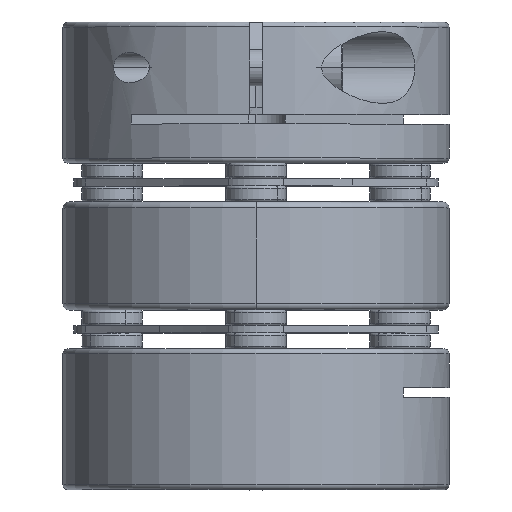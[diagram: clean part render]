
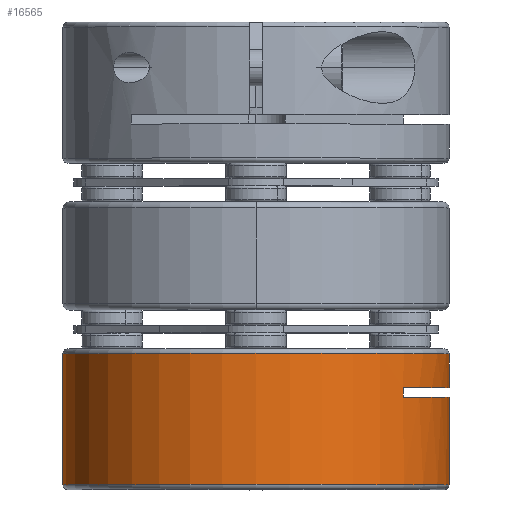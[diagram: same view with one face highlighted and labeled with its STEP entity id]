
A CAD part, top view. The second image highlights one B-rep face of the part: STEP entity #16565.
In plain terms, the highlighted cylindrical face has radius 15.9 mm (diameter 31.8 mm), a partial arc.
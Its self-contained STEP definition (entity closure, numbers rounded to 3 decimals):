
#214 = EDGE_CURVE ( 'NONE', #15412, #15202, #20263, .T. ) ;
#217 = EDGE_CURVE ( 'NONE', #15147, #14938, #20267, .T. ) ;
#223 = EDGE_CURVE ( 'NONE', #15639, #15216, #20277, .T. ) ;
#240 = EDGE_CURVE ( 'NONE', #14938, #15202, #20300, .T. ) ;
#462 = AXIS2_PLACEMENT_3D ( 'NONE', #11373, #11372, #11371 ) ;
#684 = AXIS2_PLACEMENT_3D ( 'NONE', #12375, #12374, #12373 ) ;
#687 = AXIS2_PLACEMENT_3D ( 'NONE', #12364, #12363, #12362 ) ;
#688 = AXIS2_PLACEMENT_3D ( 'NONE', #12361, #12360, #12359 ) ;
#872 = AXIS2_PLACEMENT_3D ( 'NONE', #3087, #3083, #3077 ) ;
#985 = LINE ( 'NONE', #19043, #990 ) ;
#990 = VECTOR ( 'NONE', #19032, 1000. ) ;
#1299 = CIRCLE ( 'NONE', #684, 15.9 ) ;
#1302 = CIRCLE ( 'NONE', #687, 15.9 ) ;
#1303 = CIRCLE ( 'NONE', #688, 15.9 ) ;
#1670 = FACE_OUTER_BOUND ( 'NONE', #21571, .T. ) ;
#1672 = CYLINDRICAL_SURFACE ( 'NONE', #872, 15.9 ) ;
#2220 = CARTESIAN_POINT ( 'NONE',  ( -15.9, -3.6, 0. ) ) ;
#2247 = CARTESIAN_POINT ( 'NONE',  ( 15.9, -14.4, 0. ) ) ;
#2250 = CARTESIAN_POINT ( 'NONE',  ( 15.9, -6.4, 0. ) ) ;
#2318 = CARTESIAN_POINT ( 'NONE',  ( 15.9, -7.2, 0. ) ) ;
#2397 = CARTESIAN_POINT ( 'NONE',  ( 15.9, -3.6, 0. ) ) ;
#2413 = CARTESIAN_POINT ( 'NONE',  ( 12.125, -7.2, 10.286 ) ) ;
#3077 = DIRECTION ( 'NONE',  ( -1., 0., 0. ) ) ;
#3083 = DIRECTION ( 'NONE',  ( 0., -1., 0. ) ) ;
#3087 = CARTESIAN_POINT ( 'NONE',  ( 0., -3.2, 0. ) ) ;
#11371 = DIRECTION ( 'NONE',  ( -1., 0., 0. ) ) ;
#11372 = DIRECTION ( 'NONE',  ( 0., 1., 0. ) ) ;
#11373 = CARTESIAN_POINT ( 'NONE',  ( 0., -14.4, 0. ) ) ;
#11486 = CARTESIAN_POINT ( 'NONE',  ( 15.9, -3.2, 0. ) ) ;
#11492 = DIRECTION ( 'NONE',  ( 0., -1., 0. ) ) ;
#11499 = DIRECTION ( 'NONE',  ( 0., -1., 0. ) ) ;
#12359 = DIRECTION ( 'NONE',  ( 0., 0., -1. ) ) ;
#12360 = DIRECTION ( 'NONE',  ( 0., -1., 0. ) ) ;
#12361 = CARTESIAN_POINT ( 'NONE',  ( 0., -6.4, 0. ) ) ;
#12362 = DIRECTION ( 'NONE',  ( 0., 0., 1. ) ) ;
#12363 = DIRECTION ( 'NONE',  ( 0., 1., 0. ) ) ;
#12364 = CARTESIAN_POINT ( 'NONE',  ( 0., -7.2, 0. ) ) ;
#12373 = DIRECTION ( 'NONE',  ( -1., 0., 0. ) ) ;
#12374 = DIRECTION ( 'NONE',  ( 0., -1., 0. ) ) ;
#12375 = CARTESIAN_POINT ( 'NONE',  ( 0., -3.6, 0. ) ) ;
#12686 = EDGE_CURVE ( 'NONE', #15673, #14486, #985, .T. ) ;
#12894 = EDGE_CURVE ( 'NONE', #15639, #15147, #1299, .T. ) ;
#12897 = EDGE_CURVE ( 'NONE', #15673, #15412, #1302, .T. ) ;
#12898 = EDGE_CURVE ( 'NONE', #15216, #14486, #1303, .T. ) ;
#13144 = CARTESIAN_POINT ( 'NONE',  ( -15.9, -14.4, 0. ) ) ;
#13453 = CARTESIAN_POINT ( 'NONE',  ( 12.125, -6.4, 10.286 ) ) ;
#14486 = VERTEX_POINT ( 'NONE', #13453 ) ;
#14856 = CARTESIAN_POINT ( 'NONE',  ( -15.9, -3.2, 0. ) ) ;
#14864 = CARTESIAN_POINT ( 'NONE',  ( 15.9, -3.2, 0. ) ) ;
#14938 = VERTEX_POINT ( 'NONE', #13144 ) ;
#15147 = VERTEX_POINT ( 'NONE', #2220 ) ;
#15163 = DIRECTION ( 'NONE',  ( 0., -1., 0. ) ) ;
#15197 = ORIENTED_EDGE ( 'NONE', *, *, #12686, .T. ) ;
#15201 = ORIENTED_EDGE ( 'NONE', *, *, #214, .F. ) ;
#15202 = VERTEX_POINT ( 'NONE', #2247 ) ;
#15216 = VERTEX_POINT ( 'NONE', #2250 ) ;
#15267 = ORIENTED_EDGE ( 'NONE', *, *, #12898, .F. ) ;
#15271 = ORIENTED_EDGE ( 'NONE', *, *, #12897, .F. ) ;
#15410 = ORIENTED_EDGE ( 'NONE', *, *, #217, .T. ) ;
#15412 = VERTEX_POINT ( 'NONE', #2318 ) ;
#15415 = ORIENTED_EDGE ( 'NONE', *, *, #12894, .T. ) ;
#15446 = ORIENTED_EDGE ( 'NONE', *, *, #240, .T. ) ;
#15639 = VERTEX_POINT ( 'NONE', #2397 ) ;
#15654 = ORIENTED_EDGE ( 'NONE', *, *, #223, .F. ) ;
#15673 = VERTEX_POINT ( 'NONE', #2413 ) ;
#16565 = ADVANCED_FACE ( 'NONE', ( #1670 ), #1672, .T. ) ;
#19032 = DIRECTION ( 'NONE',  ( 0., 1., 0. ) ) ;
#19043 = CARTESIAN_POINT ( 'NONE',  ( 12.125, -3.2, 10.286 ) ) ;
#20263 = LINE ( 'NONE', #14864, #20270 ) ;
#20267 = LINE ( 'NONE', #14856, #20272 ) ;
#20270 = VECTOR ( 'NONE', #15163, 1000. ) ;
#20272 = VECTOR ( 'NONE', #11499, 1000. ) ;
#20277 = LINE ( 'NONE', #11486, #20282 ) ;
#20282 = VECTOR ( 'NONE', #11492, 1000. ) ;
#20300 = CIRCLE ( 'NONE', #462, 15.9 ) ;
#21571 = EDGE_LOOP ( 'NONE', ( #15654, #15415, #15410, #15446, #15201, #15271, #15197, #15267 ) ) ;
